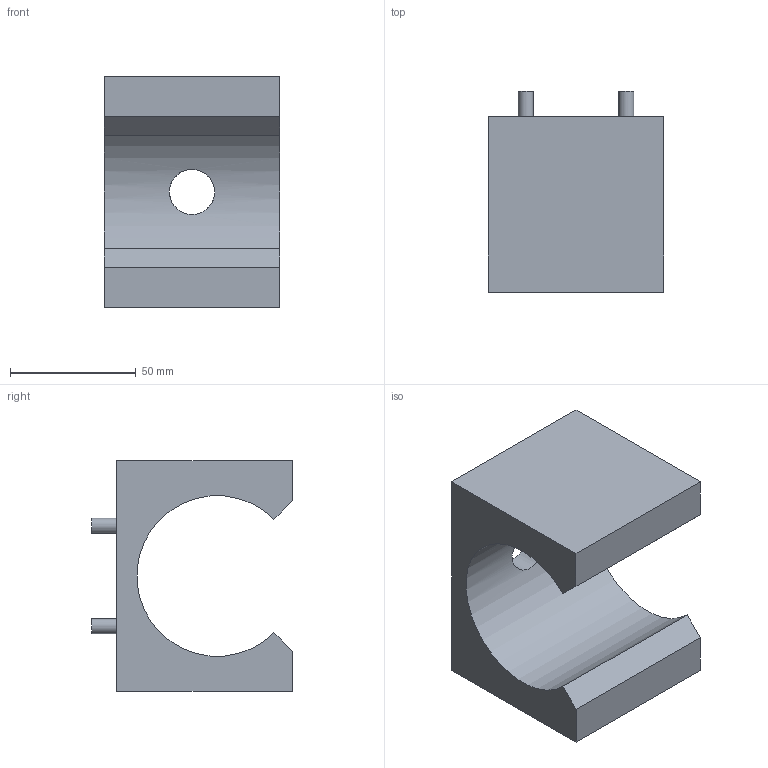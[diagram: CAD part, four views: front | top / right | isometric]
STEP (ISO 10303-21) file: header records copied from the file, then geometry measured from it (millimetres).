
FILE_DESCRIPTION(('STEP AP242'), '1');
FILE_NAME('扻豵鵨', '', ('UNSPECIFIED'), ('UNSPECIFIED'), 'C3D Converter', 'C3D Toolkit', '');
FILE_SCHEMA(('AP242_MANAGED_MODEL_BASED_3D_ENGINEERING_MIM_LF { 1 0 10303 442 1 1 4 }'));
Length unit declared in the file: millimetre
Bounding box: 70 x 80 x 92 mm (x, y, z)
Volume: 217921.9 mm3; surface area: 37481.1 mm2
Topology: 1 solids, 1 shells, 19 faces, 39 edges, 26 vertices
Faces by surface type: plane 13, cylinder 6
Full cylindrical faces by diameter (mm): 6 x4, 18 x1
Entity records: 710 total; most frequent: CARTESIAN_POINT 269, DIRECTION 84, ORIENTED_EDGE 68, EDGE_CURVE 34, AXIS2_PLACEMENT_3D 31, EDGE_LOOP 30, VERTEX_POINT 26, LINE 22
